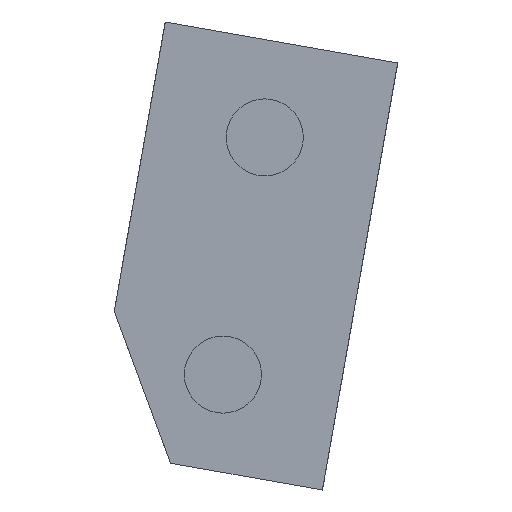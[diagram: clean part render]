
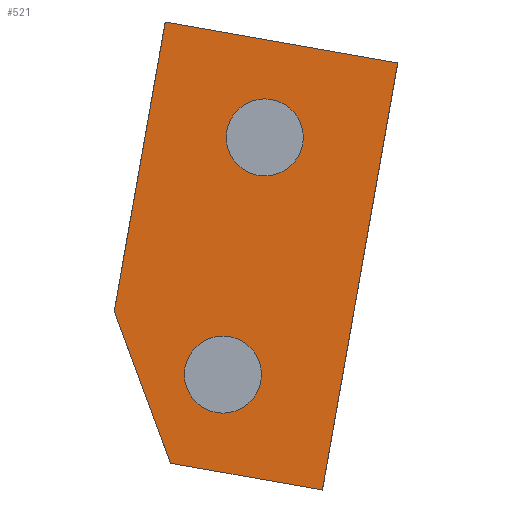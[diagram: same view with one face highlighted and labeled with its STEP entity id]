
A CAD part, left-side view. The second image highlights one B-rep face of the part: STEP entity #521.
In plain terms, the highlighted planar face has unit normal (-1, 0, 0).
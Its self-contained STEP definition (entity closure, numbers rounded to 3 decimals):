
#15=FACE_BOUND('',#179,.T.);
#16=FACE_BOUND('',#180,.T.);
#28=LINE('',#796,#79);
#30=LINE('',#800,#81);
#32=LINE('',#806,#83);
#36=LINE('',#818,#87);
#37=LINE('',#819,#88);
#79=VECTOR('',#640,10.);
#81=VECTOR('',#644,10.);
#83=VECTOR('',#650,10.);
#87=VECTOR('',#664,10.);
#88=VECTOR('',#665,10.);
#147=FACE_OUTER_BOUND('',#178,.T.);
#178=EDGE_LOOP('',(#382,#383,#384,#385,#386));
#179=EDGE_LOOP('',(#387));
#180=EDGE_LOOP('',(#388));
#218=CIRCLE('',#578,1.6);
#219=CIRCLE('',#579,1.6);
#238=VERTEX_POINT('',#793);
#239=VERTEX_POINT('',#795);
#240=VERTEX_POINT('',#799);
#242=VERTEX_POINT('',#805);
#245=VERTEX_POINT('',#817);
#246=VERTEX_POINT('',#820);
#247=VERTEX_POINT('',#822);
#288=EDGE_CURVE('',#239,#238,#28,.F.);
#290=EDGE_CURVE('',#239,#240,#30,.T.);
#293=EDGE_CURVE('',#238,#242,#32,.T.);
#299=EDGE_CURVE('',#245,#242,#36,.T.);
#300=EDGE_CURVE('',#245,#240,#37,.T.);
#301=EDGE_CURVE('',#246,#246,#218,.T.);
#302=EDGE_CURVE('',#247,#247,#219,.T.);
#382=ORIENTED_EDGE('',*,*,#293,.T.);
#383=ORIENTED_EDGE('',*,*,#299,.F.);
#384=ORIENTED_EDGE('',*,*,#300,.T.);
#385=ORIENTED_EDGE('',*,*,#290,.F.);
#386=ORIENTED_EDGE('',*,*,#288,.T.);
#387=ORIENTED_EDGE('',*,*,#301,.F.);
#388=ORIENTED_EDGE('',*,*,#302,.F.);
#496=PLANE('',#577);
#521=ADVANCED_FACE('',(#147,#15,#16),#496,.T.);
#577=AXIS2_PLACEMENT_3D('',#816,#662,#663);
#578=AXIS2_PLACEMENT_3D('',#821,#666,#667);
#579=AXIS2_PLACEMENT_3D('',#823,#668,#669);
#640=DIRECTION('',(0.,0.348,0.938));
#644=DIRECTION('',(0.,-0.174,0.985));
#650=DIRECTION('',(0.,-0.985,-0.174));
#662=DIRECTION('center_axis',(-1.,0.,0.));
#663=DIRECTION('ref_axis',(0.,0.174,-0.985));
#664=DIRECTION('',(0.,0.174,-0.985));
#665=DIRECTION('',(0.,0.985,0.174));
#666=DIRECTION('center_axis',(-1.,0.,0.));
#667=DIRECTION('ref_axis',(0.,-0.985,-0.174));
#668=DIRECTION('center_axis',(-1.,0.,0.));
#669=DIRECTION('ref_axis',(0.,-0.985,-0.174));
#793=CARTESIAN_POINT('',(41.226,-276.504,-64.313));
#795=CARTESIAN_POINT('',(41.226,-274.161,-58.));
#796=CARTESIAN_POINT('',(41.226,-272.366,-53.164));
#799=CARTESIAN_POINT('',(41.226,-276.278,-45.995));
#800=CARTESIAN_POINT('',(41.226,-274.367,-56.828));
#805=CARTESIAN_POINT('',(41.226,-282.803,-65.423));
#806=CARTESIAN_POINT('',(41.226,-302.696,-68.931));
#816=CARTESIAN_POINT('Origin',(41.226,-300.229,-33.972));
#817=CARTESIAN_POINT('',(41.226,-285.929,-47.697));
#818=CARTESIAN_POINT('',(41.226,-284.019,-58.53));
#819=CARTESIAN_POINT('',(41.226,-305.822,-51.205));
#820=CARTESIAN_POINT('',(41.226,-277.096,-60.355));
#821=CARTESIAN_POINT('Origin',(41.226,-278.672,-60.633));
#822=CARTESIAN_POINT('',(41.226,-278.833,-50.507));
#823=CARTESIAN_POINT('Origin',(41.226,-280.409,-50.785));
